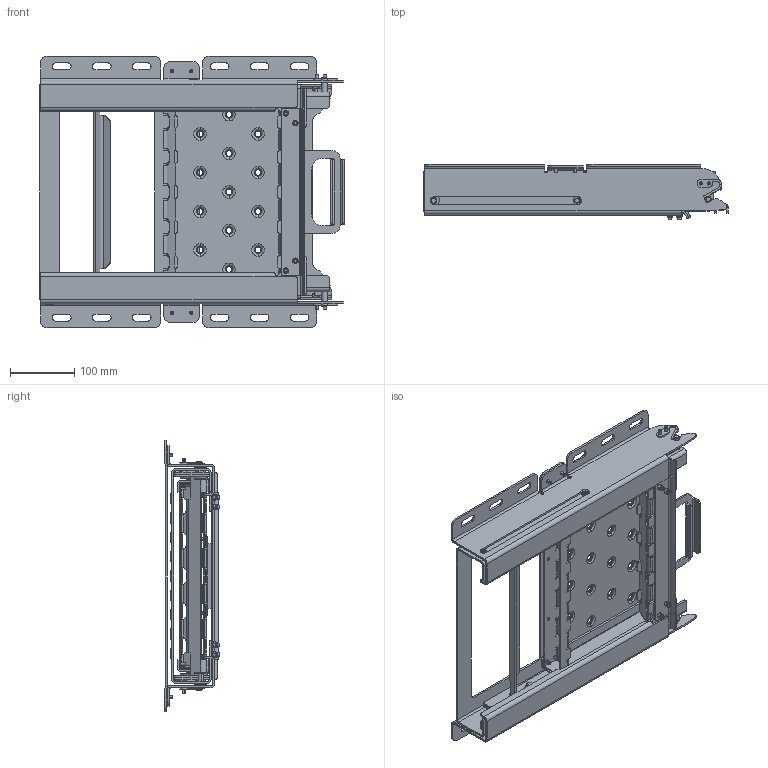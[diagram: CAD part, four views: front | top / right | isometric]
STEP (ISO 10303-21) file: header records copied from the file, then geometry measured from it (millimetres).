
FILE_DESCRIPTION (( 'STEP AP214' ), '1' );
FILE_NAME ('TK8180_CHIUSA_REV4.STEP', '2025-03-10T16:01:01', ( '' ), ( '' ), 'SwSTEP 2.0', 'SolidWorks 2023', '' );
FILE_SCHEMA (( 'AUTOMOTIVE_DESIGN' ));
Length unit declared in the file: millimetre
Products named in the file (45): TK8180_CHIUSA_REV4; TR1342; TS818044; TR1322; TS818023; TS818033; TS818027; TS818004_TS818004; TS818010_TS818010; TR1341; TS818031; TS818036; TR0042; TS818037; TS818012; TS818002_TS818002; TS818039; TS818008_COSCIALE 65 GRADI +1 mm; TS818043; TR1672; TS818018; TS818000_TS818002; TR1678; TR1350; TS818038; TS818006_PER_ASSIEME; TR1554; TS818046; TS818035; TS818026; TS818040; TS818021; TS818045; TR1349; TR1591; TS818029; TS818042; TS818016; TR0969; TR0947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
Assembly tree (89 placements, depth 5):
  TK8180_CHIUSA_REV4
    TR1349  x2
    TR1350  x2
    TR1341  x2
    TS818026  x2
    TS818028
    TR0969  x4
    TR1342  x4
    TR1678  x2
    TS818027
    TS818037
      TS818038
        TS818023
        TS818002_TS818002
        TR1322  x4
        TS818000_TS818002
    TS818039
      TS818040
        TS818004_TS818004
        TS818021
        TR1554  x4
        TR0947  x4
    TS818041
      TS818042
        TS818012
        TR1322  x6
        TS818006_PER_ASSIEME
        TS818033
          TR1591
          TS818010_TS818010
        TS818032
          TR1591
          TS818008_COSCIALE 65 GRADI +1 mm
    TS818043
      TS818044
        TR1322  x4
        TS818016
        TS818018
        TS818006_PER_ASSIEME
    TR1322  x8
    TS818045
      TS818014
    TS818035  x2
      TS818036
    TS818046
      TS818029
    TS818047
      TS818031
    TR0042  x2
    TR1672  x4
Bounding box: 472.11 x 85 x 421 mm (x, y, z)
Volume: 1453526.2 mm3; surface area: 1072810.3 mm2
Topology: 83 solids, 83 shells, 2653 faces, 6407 edges, 3910 vertices
Faces by surface type: plane 1170, cylinder 971, cone 240, torus 204, bspline 68
Entity records: 51522 total; most frequent: CARTESIAN_POINT 9379, DIRECTION 9172, ORIENTED_EDGE 8142, EDGE_CURVE 4071, AXIS2_PLACEMENT_3D 3500, VERTEX_POINT 2501, LINE 2172, VECTOR 2172
